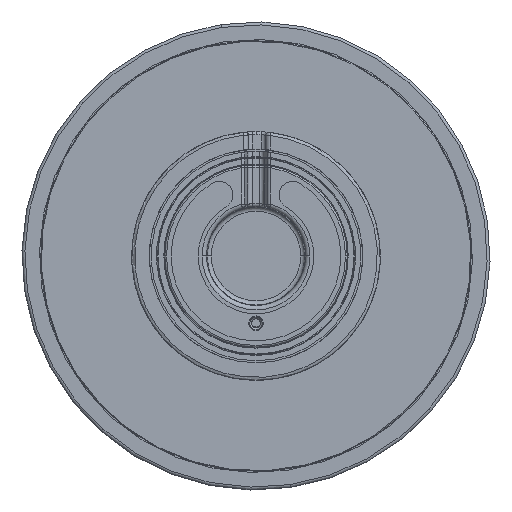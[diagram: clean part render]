
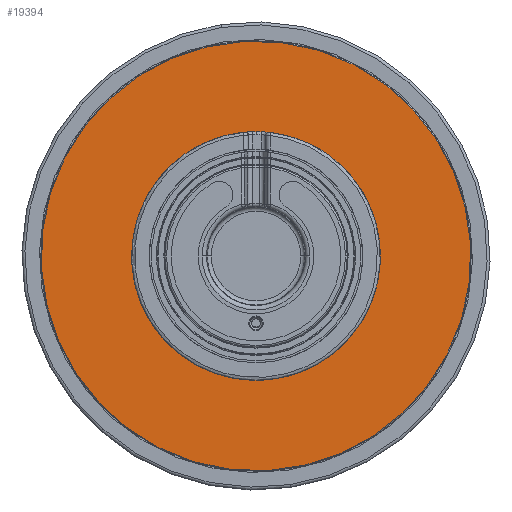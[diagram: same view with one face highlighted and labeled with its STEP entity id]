
A CAD part, front view. The second image highlights one B-rep face of the part: STEP entity #19394.
In plain terms, the highlighted planar face has unit normal (0, -1, 0).
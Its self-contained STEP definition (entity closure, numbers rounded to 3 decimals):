
#416 = ORIENTED_EDGE ( 'NONE', *, *, #25131, .T. ) ;
#911 = DIRECTION ( 'NONE',  ( 0., 1., 0. ) ) ;
#1128 = DIRECTION ( 'NONE',  ( -0.547, 0., 0.837 ) ) ;
#1656 = DIRECTION ( 'NONE',  ( -0.547, 0., 0.837 ) ) ;
#2122 = AXIS2_PLACEMENT_3D ( 'NONE', #20511, #911, #4861 ) ;
#3019 = ORIENTED_EDGE ( 'NONE', *, *, #4193, .T. ) ;
#3048 = DIRECTION ( 'NONE',  ( 0., -1., 0. ) ) ;
#3247 = EDGE_LOOP ( 'NONE', ( #9622, #416 ) ) ;
#3892 = EDGE_CURVE ( 'NONE', #20829, #22269, #6203, .T. ) ;
#4193 = EDGE_CURVE ( 'NONE', #22269, #20829, #20948, .T. ) ;
#4861 = DIRECTION ( 'NONE',  ( -0.547, 0., 0.837 ) ) ;
#5690 = VERTEX_POINT ( 'NONE', #5959 ) ;
#5831 = CARTESIAN_POINT ( 'NONE',  ( 0., 104., 0. ) ) ;
#5959 = CARTESIAN_POINT ( 'NONE',  ( -40.173, 104., 61.49 ) ) ;
#6203 = CIRCLE ( 'NONE', #2122, 32.05 ) ;
#6527 = CIRCLE ( 'NONE', #18002, 73.45 ) ;
#7378 = CARTESIAN_POINT ( 'NONE',  ( 40.173, 104., -61.49 ) ) ;
#8338 = CARTESIAN_POINT ( 'NONE',  ( 17.53, 104., -26.831 ) ) ;
#9146 = EDGE_LOOP ( 'NONE', ( #3019, #24787 ) ) ;
#9590 = AXIS2_PLACEMENT_3D ( 'NONE', #5831, #11710, #19536 ) ;
#9622 = ORIENTED_EDGE ( 'NONE', *, *, #11670, .T. ) ;
#9642 = FACE_BOUND ( 'NONE', #9146, .T. ) ;
#9892 = FACE_OUTER_BOUND ( 'NONE', #3247, .T. ) ;
#10071 = CARTESIAN_POINT ( 'NONE',  ( 0., 104., 0. ) ) ;
#10094 = CARTESIAN_POINT ( 'NONE',  ( -17.53, 104., 26.831 ) ) ;
#10195 = DIRECTION ( 'NONE',  ( 0., 1., 0. ) ) ;
#11381 = CARTESIAN_POINT ( 'NONE',  ( 0., 104., 0. ) ) ;
#11670 = EDGE_CURVE ( 'NONE', #21677, #5690, #6527, .T. ) ;
#11710 = DIRECTION ( 'NONE',  ( 0., -1., 0. ) ) ;
#12018 = AXIS2_PLACEMENT_3D ( 'NONE', #11381, #13312, #1656 ) ;
#12897 = DIRECTION ( 'NONE',  ( -0.547, 0., 0.837 ) ) ;
#13170 = AXIS2_PLACEMENT_3D ( 'NONE', #10071, #10195, #1128 ) ;
#13312 = DIRECTION ( 'NONE',  ( 0., -1., 0. ) ) ;
#17488 = PLANE ( 'NONE',  #9590 ) ;
#18002 = AXIS2_PLACEMENT_3D ( 'NONE', #18675, #3048, #12897 ) ;
#18675 = CARTESIAN_POINT ( 'NONE',  ( 0., 104., 0. ) ) ;
#19394 = ADVANCED_FACE ( 'NONE', ( #9642, #9892 ), #17488, .T. ) ;
#19536 = DIRECTION ( 'NONE',  ( 0., 0., -1. ) ) ;
#20511 = CARTESIAN_POINT ( 'NONE',  ( 0., 104., 0. ) ) ;
#20829 = VERTEX_POINT ( 'NONE', #8338 ) ;
#20948 = CIRCLE ( 'NONE', #13170, 32.05 ) ;
#21677 = VERTEX_POINT ( 'NONE', #7378 ) ;
#22269 = VERTEX_POINT ( 'NONE', #10094 ) ;
#24720 = CIRCLE ( 'NONE', #12018, 73.45 ) ;
#24787 = ORIENTED_EDGE ( 'NONE', *, *, #3892, .T. ) ;
#25131 = EDGE_CURVE ( 'NONE', #5690, #21677, #24720, .T. ) ;
